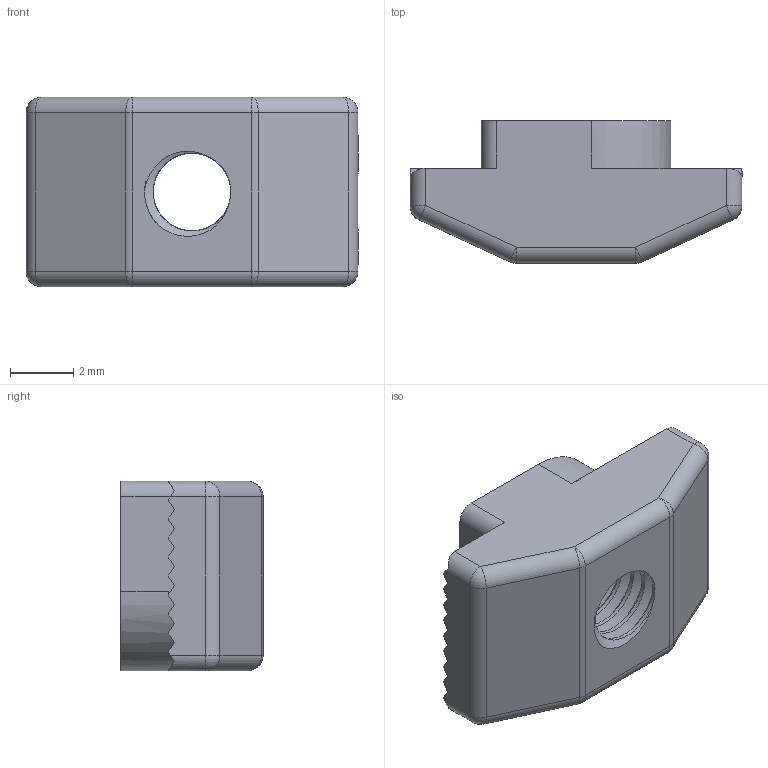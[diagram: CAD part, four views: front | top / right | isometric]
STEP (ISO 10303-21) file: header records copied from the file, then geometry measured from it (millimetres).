
FILE_DESCRIPTION (( 'STEP AP214' ), '1' );
FILE_NAME ('6-1-M3.STEP', '2020-01-12T13:03:25', ( '' ), ( '' ), 'SwSTEP 2.0', 'SolidWorks 2018', '' );
FILE_SCHEMA (( 'AUTOMOTIVE_DESIGN' ));
Length unit declared in the file: millimetre
Products named in the file (1): 6-1-M3
Bounding box: 10.5 x 4.5 x 6 mm (x, y, z)
Volume: 179 mm3; surface area: 282.1 mm2
Topology: 1 solids, 1 shells, 102 faces, 282 edges, 174 vertices
Faces by surface type: plane 52, cylinder 37, sphere 8, bspline 3, cone 2
Entity records: 4591 total; most frequent: CARTESIAN_POINT 2212, ORIENTED_EDGE 548, DIRECTION 432, EDGE_CURVE 274, VERTEX_POINT 174, VECTOR 164, LINE 164, AXIS2_PLACEMENT_3D 134
